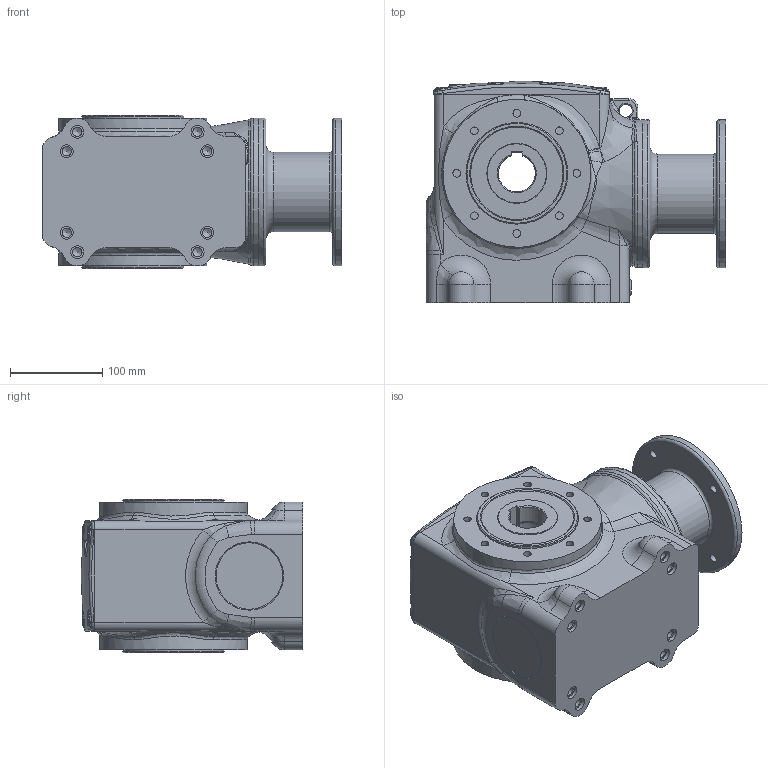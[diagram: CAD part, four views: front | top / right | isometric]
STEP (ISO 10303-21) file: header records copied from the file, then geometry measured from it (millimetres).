
FILE_DESCRIPTION(/* description */ (''),/* implementation_level */ '2;1');
FILE_NAME(/* name */ 'Z:\Dertec\RVS pakket tekeningen\Kasten\FSA + FS serie\FS\FS68\Step Customer\FS68 HA40 AMFL 100B14A #.stp',/* time_stamp */ '2017-12-08T11:19:37+01:00',/* author */ ('Dertec'),/* organization */ (''),/* preprocessor_version */ 'ST-DEVELOPER v16.1',/* originating_system */ 'Autodesk Inventor 2016',/* authorisation */ '');
FILE_SCHEMA (('AUTOMOTIVE_DESIGN { 1 0 10303 214 3 1 1 }'));
Length unit declared in the file: inch
Products named in the file (1): Part41
Bounding box: 324 x 240 x 166 mm (x, y, z)
Volume: 6640598.3 mm3; surface area: 500103.6 mm2
Topology: 1 solids, 5 shells, 550 faces, 1231 edges, 757 vertices
Faces by surface type: cylinder 169, plane 148, bspline 124, torus 55, cone 48, sphere 6
Full cylindrical faces by diameter (mm): 4.134 x8, 5.5 x8, 6.647 x4, 8.376 x16, 8.917 x1, 9 x8, 10.106 x8, 11 x8, 14 x9, 46 x1, 47 x1, 64.9 x3, 65 x2, 66 x1, 68 x2, 68.4 x1, 69 x1, 71 x1, 72 x2, 74.3 x1, 86 x1, 100 x4, 103.5 x2, 110 x3, 114 x1, 116 x1, 117 x1, 119 x1, 160 x4
Entity records: 21525 total; most frequent: CARTESIAN_POINT 10330, DIRECTION 2082, ORIENTED_EDGE 2002, EDGE_CURVE 1001, AXIS2_PLACEMENT_3D 941, EDGE_LOOP 808, VERTEX_POINT 701, FACE_OUTER_BOUND 550
